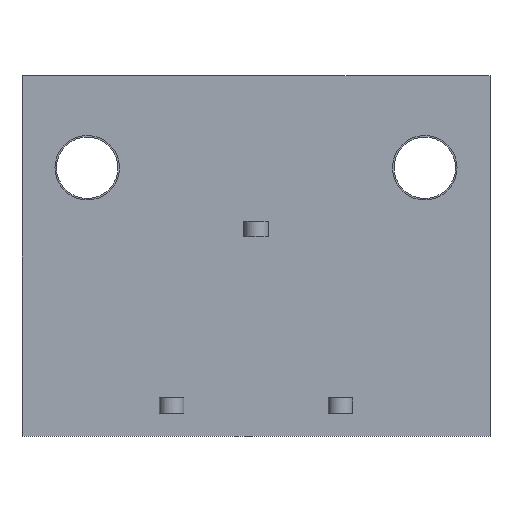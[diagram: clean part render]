
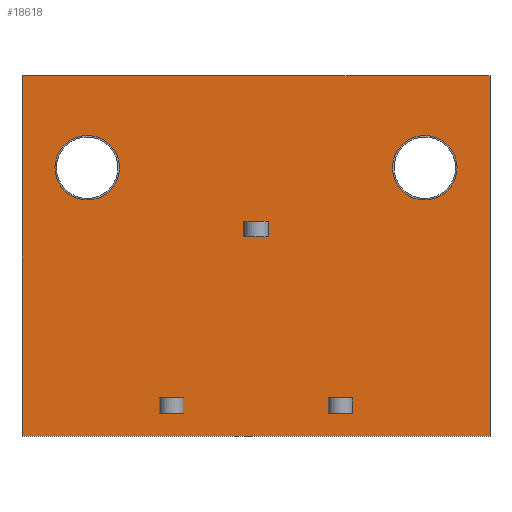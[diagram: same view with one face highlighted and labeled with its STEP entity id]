
A CAD part, front view. The second image highlights one B-rep face of the part: STEP entity #18618.
In plain terms, the highlighted planar face has unit normal (0, -1, 0).
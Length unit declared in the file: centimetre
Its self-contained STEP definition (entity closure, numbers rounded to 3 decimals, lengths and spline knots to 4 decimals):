
#1094=VECTOR('',#19956,1.);
#1102=VECTOR('',#19965,1.);
#1121=VECTOR('',#20009,1.);
#1123=VECTOR('',#20012,1.);
#1144=VECTOR('',#20044,1.);
#1148=VECTOR('',#20049,1.);
#1169=VECTOR('',#20095,1.);
#1171=VECTOR('',#20098,1.);
#1570=VECTOR('',#20639,1.);
#1711=VECTOR('',#20942,1.);
#1719=VECTOR('',#20962,1.);
#1727=VECTOR('',#20982,1.);
#1729=VECTOR('',#20985,1.);
#1734=VECTOR('',#20992,1.);
#1744=VECTOR('',#21008,1.);
#1745=VECTOR('',#21009,1.);
#3185=LINE('',#23467,#1094);
#3193=LINE('',#23484,#1102);
#3212=LINE('',#23539,#1121);
#3214=LINE('',#23543,#1123);
#3235=LINE('',#23586,#1144);
#3239=LINE('',#23595,#1148);
#3260=LINE('',#23655,#1169);
#3262=LINE('',#23659,#1171);
#3661=LINE('',#25117,#1570);
#3802=LINE('',#25541,#1711);
#3810=LINE('',#25563,#1719);
#3818=LINE('',#25586,#1727);
#3820=LINE('',#25590,#1729);
#3825=LINE('',#25600,#1734);
#3835=LINE('',#25622,#1744);
#3836=LINE('',#25624,#1745);
#5314=PLANE('',#30497);
#5758=CIRCLE('',#30155,0.21);
#5766=CIRCLE('',#30182,0.21);
#6082=VERTEX_POINT('',#23350);
#6120=VERTEX_POINT('',#23459);
#6123=VERTEX_POINT('',#23468);
#6124=VERTEX_POINT('',#23469);
#6131=VERTEX_POINT('',#23485);
#6152=VERTEX_POINT('',#23540);
#6164=VERTEX_POINT('',#23587);
#6165=VERTEX_POINT('',#23588);
#6168=VERTEX_POINT('',#23596);
#6192=VERTEX_POINT('',#23656);
#6528=VERTEX_POINT('',#25116);
#6529=VERTEX_POINT('',#25118);
#6661=VERTEX_POINT('',#25542);
#6662=VERTEX_POINT('',#25543);
#6668=VERTEX_POINT('',#25564);
#6675=VERTEX_POINT('',#25587);
#6678=VERTEX_POINT('',#25599);
#6687=VERTEX_POINT('',#25623);
#8058=EDGE_CURVE('',#6082,#6082,#5758,.T.);
#8111=EDGE_CURVE('',#6120,#6120,#5766,.T.);
#8115=EDGE_CURVE('',#6123,#6124,#3185,.T.);
#8123=EDGE_CURVE('',#6131,#6123,#3193,.T.);
#8153=EDGE_CURVE('',#6152,#6131,#3212,.T.);
#8155=EDGE_CURVE('',#6124,#6152,#3214,.T.);
#8176=EDGE_CURVE('',#6164,#6165,#3235,.T.);
#8180=EDGE_CURVE('',#6168,#6164,#3239,.T.);
#8212=EDGE_CURVE('',#6192,#6168,#3260,.T.);
#8214=EDGE_CURVE('',#6165,#6192,#3262,.T.);
#8717=EDGE_CURVE('',#6529,#6528,#3661,.T.);
#8916=EDGE_CURVE('',#6661,#6662,#3802,.T.);
#8928=EDGE_CURVE('',#6668,#6661,#3810,.T.);
#8940=EDGE_CURVE('',#6675,#6668,#3818,.T.);
#8942=EDGE_CURVE('',#6662,#6675,#3820,.T.);
#8947=EDGE_CURVE('',#6528,#6678,#3825,.T.);
#8958=EDGE_CURVE('',#6678,#6687,#3835,.T.);
#8959=EDGE_CURVE('',#6529,#6687,#3836,.T.);
#12917=ORIENTED_EDGE('',*,*,#8058,.T.);
#12918=ORIENTED_EDGE('',*,*,#8111,.T.);
#12919=ORIENTED_EDGE('',*,*,#8123,.T.);
#12920=ORIENTED_EDGE('',*,*,#8115,.T.);
#12921=ORIENTED_EDGE('',*,*,#8155,.T.);
#12922=ORIENTED_EDGE('',*,*,#8153,.T.);
#12923=ORIENTED_EDGE('',*,*,#8180,.T.);
#12924=ORIENTED_EDGE('',*,*,#8176,.T.);
#12925=ORIENTED_EDGE('',*,*,#8214,.T.);
#12926=ORIENTED_EDGE('',*,*,#8212,.T.);
#12927=ORIENTED_EDGE('',*,*,#8947,.T.);
#12928=ORIENTED_EDGE('',*,*,#8958,.T.);
#12929=ORIENTED_EDGE('',*,*,#8959,.F.);
#12930=ORIENTED_EDGE('',*,*,#8717,.T.);
#12931=ORIENTED_EDGE('',*,*,#8928,.F.);
#12932=ORIENTED_EDGE('',*,*,#8940,.F.);
#12933=ORIENTED_EDGE('',*,*,#8942,.F.);
#12934=ORIENTED_EDGE('',*,*,#8916,.F.);
#16406=EDGE_LOOP('',(#12917));
#16407=EDGE_LOOP('',(#12918));
#16408=EDGE_LOOP('',(#12919,#12920,#12921,#12922));
#16409=EDGE_LOOP('',(#12923,#12924,#12925,#12926));
#16410=EDGE_LOOP('',(#12927,#12928,#12929,#12930));
#16411=EDGE_LOOP('',(#12931,#12932,#12933,#12934));
#17540=FACE_BOUND('',#16406,.T.);
#17541=FACE_BOUND('',#16407,.T.);
#17542=FACE_BOUND('',#16408,.T.);
#17543=FACE_BOUND('',#16409,.T.);
#17544=FACE_BOUND('',#16410,.T.);
#17545=FACE_BOUND('',#16411,.T.);
#18618=ADVANCED_FACE('',(#17540,#17541,#17542,#17543,#17544,#17545),#5314,
 .T.);
#19866=DIRECTION('',(0.,1.,0.));
#19867=DIRECTION('',(0.21,0.,0.));
#19949=DIRECTION('',(0.,1.,0.));
#19950=DIRECTION('',(0.21,0.,0.));
#19956=DIRECTION('',(0.,0.,1.));
#19965=DIRECTION('',(-1.,0.,0.));
#20009=DIRECTION('',(0.,0.,-1.));
#20012=DIRECTION('',(1.,0.,0.));
#20044=DIRECTION('',(0.,0.,1.));
#20049=DIRECTION('',(-1.,0.,0.));
#20095=DIRECTION('',(0.,0.,-1.));
#20098=DIRECTION('',(1.,0.,0.));
#20639=DIRECTION('',(0.,0.,-1.));
#20942=DIRECTION('',(0.,0.,1.));
#20962=DIRECTION('',(1.,0.,0.));
#20982=DIRECTION('',(0.,0.,-1.));
#20985=DIRECTION('',(-1.,0.,0.));
#20992=DIRECTION('',(1.,0.,0.));
#21007=DIRECTION('',(0.,-1.,0.));
#21008=DIRECTION('',(0.,0.,1.));
#21009=DIRECTION('',(1.,0.,0.));
#23349=CARTESIAN_POINT('',(0.55,-2.045,1.15));
#23350=CARTESIAN_POINT('',(0.34,-2.045,1.15));
#23458=CARTESIAN_POINT('',(-1.65,-2.045,1.15));
#23459=CARTESIAN_POINT('',(-1.86,-2.045,1.15));
#23467=CARTESIAN_POINT('',(-0.6299,-2.045,0.375));
#23468=CARTESIAN_POINT('',(-0.6299,-2.045,0.7));
#23469=CARTESIAN_POINT('',(-0.6299,-2.045,0.8));
#23484=CARTESIAN_POINT('',(-0.4949,-2.045,0.7));
#23485=CARTESIAN_POINT('',(-0.4699,-2.045,0.7));
#23539=CARTESIAN_POINT('',(-0.4699,-2.045,0.375));
#23540=CARTESIAN_POINT('',(-0.4699,-2.045,0.8));
#23543=CARTESIAN_POINT('',(-0.4949,-2.045,0.8));
#23586=CARTESIAN_POINT('',(-1.18,-2.045,-0.2));
#23587=CARTESIAN_POINT('',(-1.18,-2.045,-0.45));
#23588=CARTESIAN_POINT('',(-1.18,-2.045,-0.35));
#23595=CARTESIAN_POINT('',(-0.77,-2.045,-0.45));
#23596=CARTESIAN_POINT('',(-1.02,-2.045,-0.45));
#23655=CARTESIAN_POINT('',(-1.02,-2.045,-0.2));
#23656=CARTESIAN_POINT('',(-1.02,-2.045,-0.35));
#23659=CARTESIAN_POINT('',(-0.77,-2.045,-0.35));
#25116=CARTESIAN_POINT('',(-2.075,-2.045,-0.6));
#25117=CARTESIAN_POINT('',(-2.075,-2.045,0.6));
#25118=CARTESIAN_POINT('',(-2.075,-2.045,1.75));
#25541=CARTESIAN_POINT('',(0.08,-2.045,-0.2));
#25542=CARTESIAN_POINT('',(0.08,-2.045,-0.45));
#25543=CARTESIAN_POINT('',(0.08,-2.045,-0.35));
#25563=CARTESIAN_POINT('',(-0.22,-2.045,-0.45));
#25564=CARTESIAN_POINT('',(-0.08,-2.045,-0.45));
#25586=CARTESIAN_POINT('',(-0.08,-2.045,-0.2));
#25587=CARTESIAN_POINT('',(-0.08,-2.045,-0.35));
#25590=CARTESIAN_POINT('',(-0.22,-2.045,-0.35));
#25599=CARTESIAN_POINT('',(0.975,-2.045,-0.6));
#25600=CARTESIAN_POINT('',(-2.075,-2.045,-0.6));
#25621=CARTESIAN_POINT('',(-0.44,-2.045,0.));
#25622=CARTESIAN_POINT('',(0.975,-2.045,1.75));
#25623=CARTESIAN_POINT('',(0.975,-2.045,1.75));
#25624=CARTESIAN_POINT('',(-2.075,-2.045,1.75));
#30155=AXIS2_PLACEMENT_3D('',#23349,#19866,#19867);
#30182=AXIS2_PLACEMENT_3D('',#23458,#19949,#19950);
#30497=AXIS2_PLACEMENT_3D('',#25621,#21007,$);
